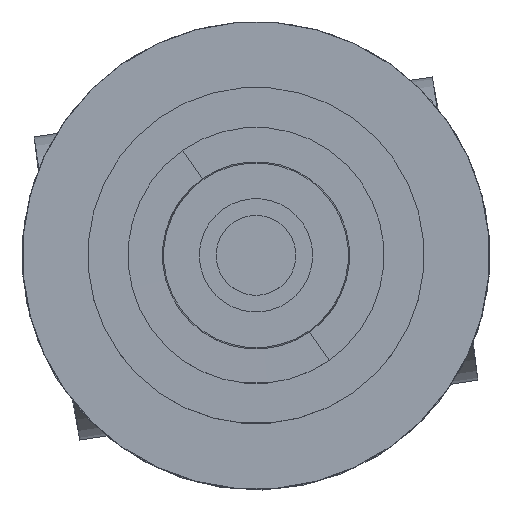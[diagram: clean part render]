
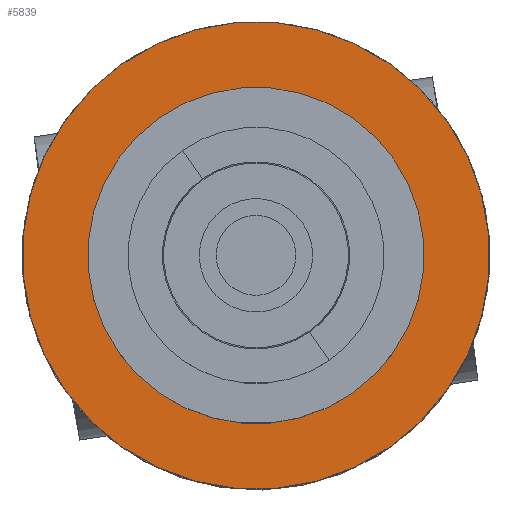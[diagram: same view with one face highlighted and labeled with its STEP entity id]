
A CAD part, top view. The second image highlights one B-rep face of the part: STEP entity #5839.
In plain terms, the highlighted planar face has unit normal (0, 0, 1).
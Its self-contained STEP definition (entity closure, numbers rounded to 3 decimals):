
#147 = ORIENTED_EDGE ( 'NONE', *, *, #3905, .T. ) ;
#333 = EDGE_CURVE ( 'NONE', #8465, #8427, #583, .T. ) ;
#583 = CIRCLE ( 'NONE', #4960, 72.39 ) ;
#790 = DIRECTION ( 'NONE',  ( -0.574, 0.819, 0. ) ) ;
#883 = ORIENTED_EDGE ( 'NONE', *, *, #9659, .T. ) ;
#906 = VERTEX_POINT ( 'NONE', #4629 ) ;
#910 = AXIS2_PLACEMENT_3D ( 'NONE', #2053, #2162, #2106 ) ;
#985 = CARTESIAN_POINT ( 'NONE',  ( 43.023, -54.482, 84.099 ) ) ;
#1737 = CARTESIAN_POINT ( 'NONE',  ( -40.019, 64.115, 84.099 ) ) ;
#2043 = DIRECTION ( 'NONE',  ( 0., -1., 0. ) ) ;
#2053 = CARTESIAN_POINT ( 'NONE',  ( 1.502, 4.816, 84.099 ) ) ;
#2106 = DIRECTION ( 'NONE',  ( -0.574, 0.819, 0. ) ) ;
#2162 = DIRECTION ( 'NONE',  ( 0., 0., -1. ) ) ;
#3235 = CARTESIAN_POINT ( 'NONE',  ( 1.502, 4.816, 84.099 ) ) ;
#3342 = AXIS2_PLACEMENT_3D ( 'NONE', #3235, #6497, #790 ) ;
#3677 = FACE_BOUND ( 'NONE', #9617, .T. ) ;
#3905 = EDGE_CURVE ( 'NONE', #906, #9315, #4509, .T. ) ;
#3927 = ORIENTED_EDGE ( 'NONE', *, *, #333, .F. ) ;
#4350 = AXIS2_PLACEMENT_3D ( 'NONE', #10074, #9283, #2043 ) ;
#4509 = CIRCLE ( 'NONE', #3342, 52.085 ) ;
#4629 = CARTESIAN_POINT ( 'NONE',  ( -28.373, 47.482, 84.099 ) ) ;
#4860 = ORIENTED_EDGE ( 'NONE', *, *, #9796, .F. ) ;
#4952 = CIRCLE ( 'NONE', #8176, 52.085 ) ;
#4960 = AXIS2_PLACEMENT_3D ( 'NONE', #8403, #9567, #5484 ) ;
#5195 = FACE_OUTER_BOUND ( 'NONE', #5241, .T. ) ;
#5241 = EDGE_LOOP ( 'NONE', ( #4860, #3927 ) ) ;
#5484 = DIRECTION ( 'NONE',  ( -0.574, 0.819, 0. ) ) ;
#5794 = DIRECTION ( 'NONE',  ( 0., 0., -1. ) ) ;
#5839 = ADVANCED_FACE ( 'NONE', ( #3677, #5195 ), #10236, .F. ) ;
#5902 = DIRECTION ( 'NONE',  ( -0.574, 0.819, 0. ) ) ;
#6458 = CARTESIAN_POINT ( 'NONE',  ( 31.377, -37.849, 84.099 ) ) ;
#6497 = DIRECTION ( 'NONE',  ( 0., 0., -1. ) ) ;
#8176 = AXIS2_PLACEMENT_3D ( 'NONE', #8334, #5794, #5902 ) ;
#8334 = CARTESIAN_POINT ( 'NONE',  ( 1.502, 4.816, 84.099 ) ) ;
#8403 = CARTESIAN_POINT ( 'NONE',  ( 1.502, 4.816, 84.099 ) ) ;
#8427 = VERTEX_POINT ( 'NONE', #1737 ) ;
#8465 = VERTEX_POINT ( 'NONE', #985 ) ;
#8859 = CIRCLE ( 'NONE', #910, 72.39 ) ;
#9283 = DIRECTION ( 'NONE',  ( 0., 0., -1. ) ) ;
#9315 = VERTEX_POINT ( 'NONE', #6458 ) ;
#9567 = DIRECTION ( 'NONE',  ( 0., 0., -1. ) ) ;
#9617 = EDGE_LOOP ( 'NONE', ( #147, #883 ) ) ;
#9659 = EDGE_CURVE ( 'NONE', #9315, #906, #4952, .T. ) ;
#9796 = EDGE_CURVE ( 'NONE', #8427, #8465, #8859, .T. ) ;
#10074 = CARTESIAN_POINT ( 'NONE',  ( 31.377, -37.849, 84.099 ) ) ;
#10236 = PLANE ( 'NONE',  #4350 ) ;
